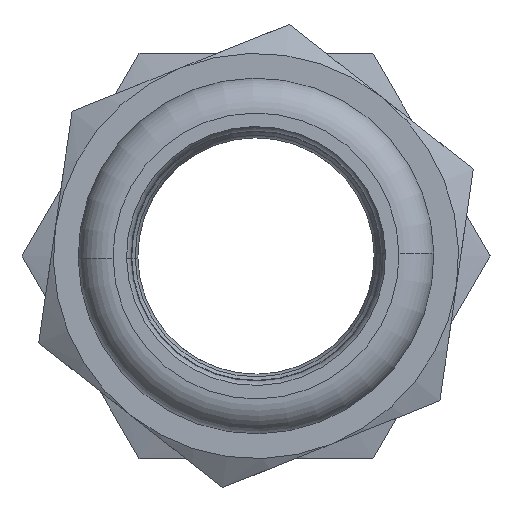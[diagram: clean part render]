
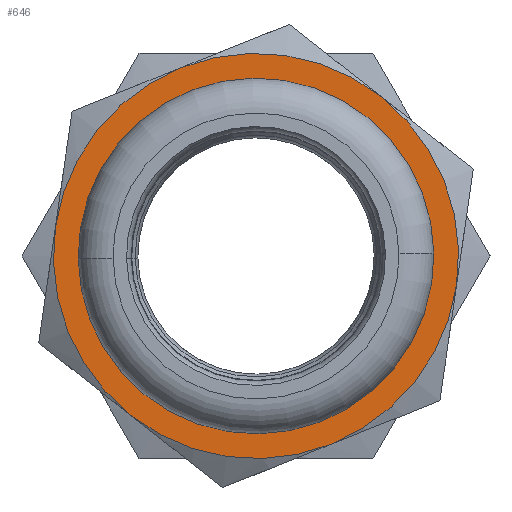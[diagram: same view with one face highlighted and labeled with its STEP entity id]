
A CAD part, left-side view. The second image highlights one B-rep face of the part: STEP entity #646.
In plain terms, the highlighted planar face has unit normal (-1, 0, 0) as drawn and (0, 1, 0) by its records, which use the part's own axes.
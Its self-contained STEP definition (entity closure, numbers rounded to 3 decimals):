
#25 = CIRCLE ( 'NONE', #2536, 18. ) ;
#56 = EDGE_LOOP ( 'NONE', ( #2962, #3422, #2548, #3370, #1231, #2711 ) ) ;
#85 = DIRECTION ( 'NONE',  ( 0., 0., 1. ) ) ;
#102 = CARTESIAN_POINT ( 'NONE',  ( 0., 17., -12.9 ) ) ;
#206 = EDGE_CURVE ( 'NONE', #1054, #4166, #1149, .T. ) ;
#208 = AXIS2_PLACEMENT_3D ( 'NONE', #508, #2425, #2140 ) ;
#226 = CIRCLE ( 'NONE', #365, 18. ) ;
#233 = VERTEX_POINT ( 'NONE', #3637 ) ;
#365 = AXIS2_PLACEMENT_3D ( 'NONE', #1722, #3991, #1408 ) ;
#378 = CARTESIAN_POINT ( 'NONE',  ( 0., 17., 0. ) ) ;
#508 = CARTESIAN_POINT ( 'NONE',  ( 0., 17., 0. ) ) ;
#571 = ORIENTED_EDGE ( 'NONE', *, *, #1724, .F. ) ;
#646 = ADVANCED_FACE ( 'NONE', ( #3364, #1652 ), #804, .T. ) ;
#736 = DIRECTION ( 'NONE',  ( 0., 0., 1. ) ) ;
#804 = PLANE ( 'NONE',  #208 ) ;
#806 = CIRCLE ( 'NONE', #3252, 18. ) ;
#875 = DIRECTION ( 'NONE',  ( 0., 1., 0. ) ) ;
#924 = EDGE_CURVE ( 'NONE', #3812, #233, #25, .T. ) ;
#1001 = AXIS2_PLACEMENT_3D ( 'NONE', #2421, #875, #4129 ) ;
#1048 = EDGE_CURVE ( 'NONE', #233, #1054, #226, .T. ) ;
#1054 = VERTEX_POINT ( 'NONE', #1389 ) ;
#1149 = CIRCLE ( 'NONE', #1347, 18. ) ;
#1212 = CARTESIAN_POINT ( 'NONE',  ( 0., 17., 0. ) ) ;
#1231 = ORIENTED_EDGE ( 'NONE', *, *, #2929, .T. ) ;
#1266 = EDGE_CURVE ( 'NONE', #2489, #2512, #2529, .T. ) ;
#1313 = DIRECTION ( 'NONE',  ( 0., 0., 1. ) ) ;
#1347 = AXIS2_PLACEMENT_3D ( 'NONE', #2622, #3927, #85 ) ;
#1353 = AXIS2_PLACEMENT_3D ( 'NONE', #1212, #2878, #2563 ) ;
#1389 = CARTESIAN_POINT ( 'NONE',  ( 15.588, 17., -9. ) ) ;
#1408 = DIRECTION ( 'NONE',  ( 0., 0., 1. ) ) ;
#1430 = CIRCLE ( 'NONE', #1353, 12.9 ) ;
#1477 = CIRCLE ( 'NONE', #3023, 12.9 ) ;
#1502 = VERTEX_POINT ( 'NONE', #102 ) ;
#1652 = FACE_OUTER_BOUND ( 'NONE', #56, .T. ) ;
#1675 = CARTESIAN_POINT ( 'NONE',  ( 0., 17., 0. ) ) ;
#1722 = CARTESIAN_POINT ( 'NONE',  ( 0., 17., 0. ) ) ;
#1724 = EDGE_CURVE ( 'NONE', #2099, #1502, #1430, .T. ) ;
#1866 = CARTESIAN_POINT ( 'NONE',  ( 0., 17., -18. ) ) ;
#1889 = ORIENTED_EDGE ( 'NONE', *, *, #3126, .F. ) ;
#1948 = CARTESIAN_POINT ( 'NONE',  ( 0., 17., 0. ) ) ;
#2099 = VERTEX_POINT ( 'NONE', #2601 ) ;
#2140 = DIRECTION ( 'NONE',  ( 0., 0., 1. ) ) ;
#2319 = CARTESIAN_POINT ( 'NONE',  ( 0., 17., 0. ) ) ;
#2421 = CARTESIAN_POINT ( 'NONE',  ( 0., 17., 0. ) ) ;
#2425 = DIRECTION ( 'NONE',  ( 0., 1., 0. ) ) ;
#2465 = CARTESIAN_POINT ( 'NONE',  ( -15.588, 17., 9. ) ) ;
#2489 = VERTEX_POINT ( 'NONE', #2497 ) ;
#2497 = CARTESIAN_POINT ( 'NONE',  ( -15.588, 17., -9. ) ) ;
#2512 = VERTEX_POINT ( 'NONE', #2465 ) ;
#2529 = CIRCLE ( 'NONE', #1001, 18. ) ;
#2536 = AXIS2_PLACEMENT_3D ( 'NONE', #378, #2646, #1313 ) ;
#2548 = ORIENTED_EDGE ( 'NONE', *, *, #1048, .T. ) ;
#2563 = DIRECTION ( 'NONE',  ( 0., 0., 1. ) ) ;
#2601 = CARTESIAN_POINT ( 'NONE',  ( 0., 17., 12.9 ) ) ;
#2622 = CARTESIAN_POINT ( 'NONE',  ( 0., 17., 0. ) ) ;
#2646 = DIRECTION ( 'NONE',  ( 0., 1., 0. ) ) ;
#2699 = DIRECTION ( 'NONE',  ( 0., 1., 0. ) ) ;
#2711 = ORIENTED_EDGE ( 'NONE', *, *, #1266, .T. ) ;
#2878 = DIRECTION ( 'NONE',  ( 0., 1., 0. ) ) ;
#2925 = DIRECTION ( 'NONE',  ( 0., 0., 1. ) ) ;
#2929 = EDGE_CURVE ( 'NONE', #4166, #2489, #3989, .T. ) ;
#2962 = ORIENTED_EDGE ( 'NONE', *, *, #3129, .T. ) ;
#3023 = AXIS2_PLACEMENT_3D ( 'NONE', #1675, #3310, #3966 ) ;
#3126 = EDGE_CURVE ( 'NONE', #1502, #2099, #1477, .T. ) ;
#3129 = EDGE_CURVE ( 'NONE', #2512, #3812, #806, .T. ) ;
#3252 = AXIS2_PLACEMENT_3D ( 'NONE', #2319, #2699, #736 ) ;
#3310 = DIRECTION ( 'NONE',  ( 0., 1., 0. ) ) ;
#3364 = FACE_BOUND ( 'NONE', #4014, .T. ) ;
#3370 = ORIENTED_EDGE ( 'NONE', *, *, #206, .T. ) ;
#3422 = ORIENTED_EDGE ( 'NONE', *, *, #924, .T. ) ;
#3630 = AXIS2_PLACEMENT_3D ( 'NONE', #1948, #3865, #2925 ) ;
#3637 = CARTESIAN_POINT ( 'NONE',  ( 15.588, 17., 9. ) ) ;
#3812 = VERTEX_POINT ( 'NONE', #4043 ) ;
#3865 = DIRECTION ( 'NONE',  ( 0., 1., 0. ) ) ;
#3927 = DIRECTION ( 'NONE',  ( 0., 1., 0. ) ) ;
#3966 = DIRECTION ( 'NONE',  ( 0., 0., 1. ) ) ;
#3989 = CIRCLE ( 'NONE', #3630, 18. ) ;
#3991 = DIRECTION ( 'NONE',  ( 0., 1., 0. ) ) ;
#4014 = EDGE_LOOP ( 'NONE', ( #571, #1889 ) ) ;
#4043 = CARTESIAN_POINT ( 'NONE',  ( 0., 17., 18. ) ) ;
#4129 = DIRECTION ( 'NONE',  ( 0., 0., 1. ) ) ;
#4166 = VERTEX_POINT ( 'NONE', #1866 ) ;
